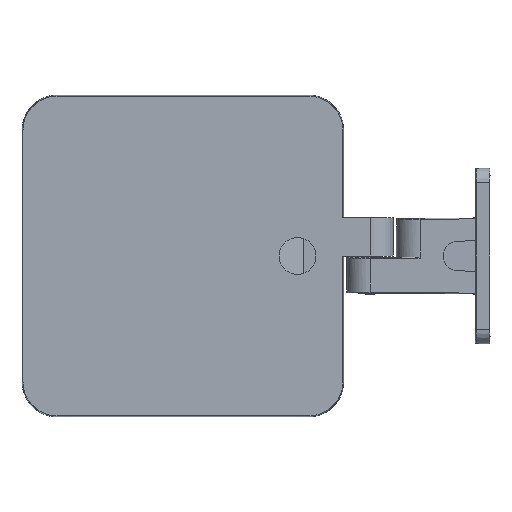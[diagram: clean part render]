
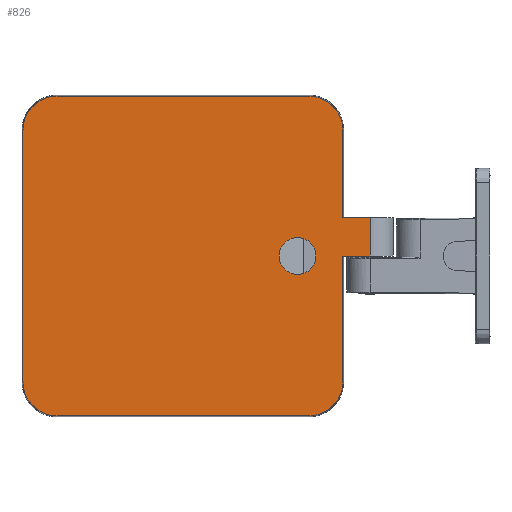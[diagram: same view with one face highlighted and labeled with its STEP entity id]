
A CAD part, front view. The second image highlights one B-rep face of the part: STEP entity #826.
In plain terms, the highlighted planar face has unit normal (0, -1, 0).
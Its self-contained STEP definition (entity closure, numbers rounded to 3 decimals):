
#1=DIRECTION('',(0.,0.,-1.));
#2=VECTOR('',#1,30.);
#3=CARTESIAN_POINT('',(54.686,-12.,43.));
#4=LINE('',#3,#2);
#5=DIRECTION('',(0.,0.,-1.));
#6=VECTOR('',#5,43.);
#7=CARTESIAN_POINT('',(54.686,-12.,0.));
#8=LINE('',#7,#6);
#9=CARTESIAN_POINT('',(43.,-12.,-43.));
#10=DIRECTION('',(0.,-1.,0.));
#11=DIRECTION('',(0.,0.,-1.));
#12=AXIS2_PLACEMENT_3D('',#9,#10,#11);
#14=DIRECTION('',(-1.,0.,0.));
#15=VECTOR('',#14,86.);
#16=CARTESIAN_POINT('',(43.,-12.,-54.686));
#17=LINE('',#16,#15);
#18=CARTESIAN_POINT('',(-43.,-12.,-43.));
#19=DIRECTION('',(0.,-1.,0.));
#20=DIRECTION('',(-1.,0.,0.));
#21=AXIS2_PLACEMENT_3D('',#18,#19,#20);
#23=DIRECTION('',(0.,0.,1.));
#24=VECTOR('',#23,86.);
#25=CARTESIAN_POINT('',(-54.686,-12.,-43.));
#26=LINE('',#25,#24);
#27=CARTESIAN_POINT('',(-43.,-12.,43.));
#28=DIRECTION('',(0.,-1.,0.));
#29=DIRECTION('',(0.,0.,1.));
#30=AXIS2_PLACEMENT_3D('',#27,#28,#29);
#32=DIRECTION('',(1.,0.,0.));
#33=VECTOR('',#32,86.);
#34=CARTESIAN_POINT('',(-43.,-12.,54.686));
#35=LINE('',#34,#33);
#36=CARTESIAN_POINT('',(43.,-12.,43.));
#37=DIRECTION('',(0.,-1.,0.));
#38=DIRECTION('',(1.,0.,0.));
#39=AXIS2_PLACEMENT_3D('',#36,#37,#38);
#41=CARTESIAN_POINT('',(39.2,-12.,0.));
#42=DIRECTION('',(0.,-1.,0.));
#43=DIRECTION('',(0.,0.,1.));
#44=AXIS2_PLACEMENT_3D('',#41,#42,#43);
#46=CARTESIAN_POINT('',(39.2,-12.,0.));
#47=DIRECTION('',(0.,-1.,0.));
#48=DIRECTION('',(0.,0.,-1.));
#49=AXIS2_PLACEMENT_3D('',#46,#47,#48);
#273=DIRECTION('',(1.,0.,0.));
#274=VECTOR('',#273,9.314);
#275=CARTESIAN_POINT('',(54.686,-12.,0.));
#276=LINE('',#275,#274);
#305=DIRECTION('',(1.,0.,0.));
#306=VECTOR('',#305,9.314);
#307=CARTESIAN_POINT('',(54.686,-12.,13.));
#308=LINE('',#307,#306);
#319=DIRECTION('',(0.,0.,1.));
#320=VECTOR('',#319,13.);
#321=CARTESIAN_POINT('',(64.,-12.,0.));
#322=LINE('',#321,#320);
#641=CARTESIAN_POINT('',(64.,-12.,0.));
#643=VERTEX_POINT('',#641);
#645=CARTESIAN_POINT('',(64.,-12.,13.));
#647=VERTEX_POINT('',#645);
#661=CARTESIAN_POINT('',(39.2,-12.,6.3));
#662=CARTESIAN_POINT('',(39.2,-12.,-6.3));
#663=VERTEX_POINT('',#661);
#664=VERTEX_POINT('',#662);
#669=CARTESIAN_POINT('',(-43.,-12.,54.686));
#670=CARTESIAN_POINT('',(-54.686,-12.,43.));
#671=VERTEX_POINT('',#669);
#672=VERTEX_POINT('',#670);
#677=CARTESIAN_POINT('',(-54.686,-12.,-43.));
#678=CARTESIAN_POINT('',(-43.,-12.,-54.686));
#679=VERTEX_POINT('',#677);
#680=VERTEX_POINT('',#678);
#685=CARTESIAN_POINT('',(54.686,-12.,43.));
#686=CARTESIAN_POINT('',(43.,-12.,54.686));
#687=VERTEX_POINT('',#685);
#688=VERTEX_POINT('',#686);
#693=CARTESIAN_POINT('',(43.,-12.,-54.686));
#694=CARTESIAN_POINT('',(54.686,-12.,-43.));
#695=VERTEX_POINT('',#693);
#696=VERTEX_POINT('',#694);
#701=CARTESIAN_POINT('',(54.686,-12.,0.));
#703=VERTEX_POINT('',#701);
#705=CARTESIAN_POINT('',(54.686,-12.,13.));
#707=VERTEX_POINT('',#705);
#789=CARTESIAN_POINT('',(0.,-12.,0.));
#790=DIRECTION('',(0.,1.,0.));
#791=DIRECTION('',(0.,0.,-1.));
#792=AXIS2_PLACEMENT_3D('',#789,#790,#791);
#793=PLANE('',#792);
#795=ORIENTED_EDGE('',*,*,#794,.T.);
#797=ORIENTED_EDGE('',*,*,#796,.T.);
#799=ORIENTED_EDGE('',*,*,#798,.F.);
#801=ORIENTED_EDGE('',*,*,#800,.F.);
#803=ORIENTED_EDGE('',*,*,#802,.T.);
#805=ORIENTED_EDGE('',*,*,#804,.F.);
#807=ORIENTED_EDGE('',*,*,#806,.T.);
#809=ORIENTED_EDGE('',*,*,#808,.F.);
#811=ORIENTED_EDGE('',*,*,#810,.T.);
#813=ORIENTED_EDGE('',*,*,#812,.F.);
#815=ORIENTED_EDGE('',*,*,#814,.T.);
#817=ORIENTED_EDGE('',*,*,#816,.F.);
#818=EDGE_LOOP('',(#795,#797,#799,#801,#803,#805,#807,#809,#811,#813,#815,
#817));
#819=FACE_OUTER_BOUND('',#818,.F.);
#821=ORIENTED_EDGE('',*,*,#820,.T.);
#823=ORIENTED_EDGE('',*,*,#822,.T.);
#824=EDGE_LOOP('',(#821,#823));
#825=FACE_BOUND('',#824,.F.);
#826=ADVANCED_FACE('',(#819,#825),#793,.F.);
#13=CIRCLE('',#12,11.686);
#22=CIRCLE('',#21,11.686);
#31=CIRCLE('',#30,11.686);
#40=CIRCLE('',#39,11.686);
#45=CIRCLE('',#44,6.3);
#50=CIRCLE('',#49,6.3);
#794=EDGE_CURVE('',#687,#707,#4,.T.);
#796=EDGE_CURVE('',#707,#647,#308,.T.);
#798=EDGE_CURVE('',#643,#647,#322,.T.);
#800=EDGE_CURVE('',#703,#643,#276,.T.);
#802=EDGE_CURVE('',#703,#696,#8,.T.);
#804=EDGE_CURVE('',#695,#696,#13,.T.);
#806=EDGE_CURVE('',#695,#680,#17,.T.);
#808=EDGE_CURVE('',#679,#680,#22,.T.);
#810=EDGE_CURVE('',#679,#672,#26,.T.);
#812=EDGE_CURVE('',#671,#672,#31,.T.);
#814=EDGE_CURVE('',#671,#688,#35,.T.);
#816=EDGE_CURVE('',#687,#688,#40,.T.);
#820=EDGE_CURVE('',#663,#664,#45,.T.);
#822=EDGE_CURVE('',#664,#663,#50,.T.);
